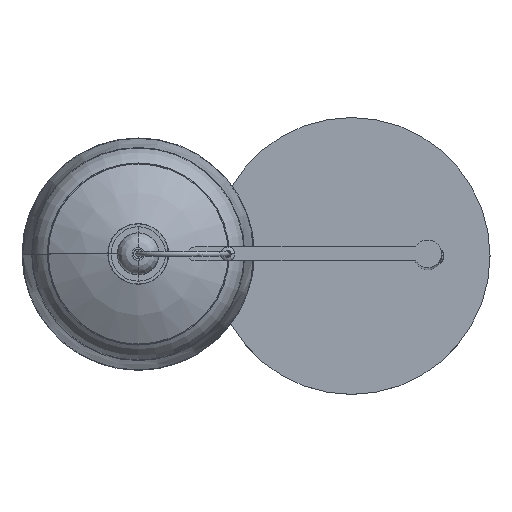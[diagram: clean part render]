
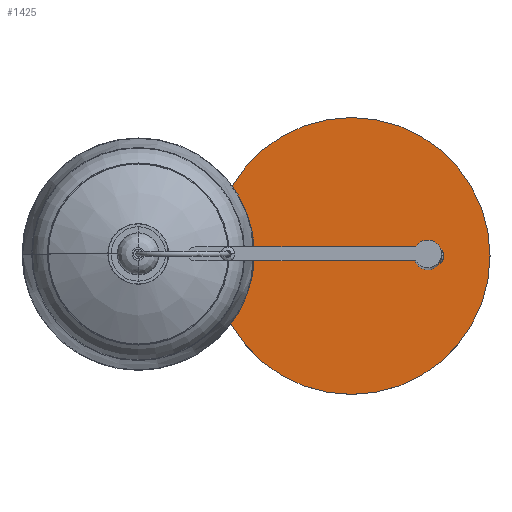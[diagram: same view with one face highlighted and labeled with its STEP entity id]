
A CAD part, top view. The second image highlights one B-rep face of the part: STEP entity #1425.
In plain terms, the highlighted planar face has unit normal (0, 0, 1).
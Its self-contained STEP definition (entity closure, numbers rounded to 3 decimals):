
#19=FACE_BOUND('',#370,.T.);
#78=PLANE('',#1926);
#245=FACE_OUTER_BOUND('',#369,.T.);
#369=EDGE_LOOP('',(#1257,#1258));
#370=EDGE_LOOP('',(#1259,#1260));
#552=VERTEX_POINT('',#5681);
#553=VERTEX_POINT('',#5682);
#556=VERTEX_POINT('',#5694);
#557=VERTEX_POINT('',#5695);
#787=EDGE_CURVE('',#552,#553,#1530,.T.);
#791=EDGE_CURVE('',#553,#552,#1532,.T.);
#793=EDGE_CURVE('',#556,#557,#1534,.T.);
#794=EDGE_CURVE('',#557,#556,#1535,.T.);
#1257=ORIENTED_EDGE('',*,*,#791,.T.);
#1258=ORIENTED_EDGE('',*,*,#787,.T.);
#1259=ORIENTED_EDGE('',*,*,#793,.F.);
#1260=ORIENTED_EDGE('',*,*,#794,.F.);
#1425=ADVANCED_FACE('',(#245,#19),#78,.T.);
#1530=CIRCLE('',#1920,150.);
#1532=CIRCLE('',#1923,150.);
#1534=CIRCLE('',#1927,15.);
#1535=CIRCLE('',#1928,15.);
#1920=AXIS2_PLACEMENT_3D('',#5683,#2385,#2386);
#1923=AXIS2_PLACEMENT_3D('',#5690,#2393,#2394);
#1926=AXIS2_PLACEMENT_3D('',#5693,#2399,#2400);
#1927=AXIS2_PLACEMENT_3D('',#5696,#2401,#2402);
#1928=AXIS2_PLACEMENT_3D('',#5697,#2403,#2404);
#2385=DIRECTION('center_axis',(0.,0.,1.));
#2386=DIRECTION('ref_axis',(1.,0.,0.));
#2393=DIRECTION('center_axis',(0.,0.,1.));
#2394=DIRECTION('ref_axis',(1.,0.,0.));
#2399=DIRECTION('center_axis',(0.,0.,1.));
#2400=DIRECTION('ref_axis',(0.,1.,0.));
#2401=DIRECTION('center_axis',(0.,0.,1.));
#2402=DIRECTION('ref_axis',(1.,0.,0.));
#2403=DIRECTION('center_axis',(0.,0.,1.));
#2404=DIRECTION('ref_axis',(1.,0.,0.));
#5681=CARTESIAN_POINT('',(150.,0.,22.));
#5682=CARTESIAN_POINT('',(-150.,0.,22.));
#5683=CARTESIAN_POINT('Origin',(0.,0.,22.));
#5690=CARTESIAN_POINT('Origin',(0.,0.,22.));
#5693=CARTESIAN_POINT('Origin',(150.,0.,22.));
#5694=CARTESIAN_POINT('',(67.496,0.,22.));
#5695=CARTESIAN_POINT('',(97.496,0.,22.));
#5696=CARTESIAN_POINT('Origin',(82.496,0.,22.));
#5697=CARTESIAN_POINT('Origin',(82.496,0.,22.));
